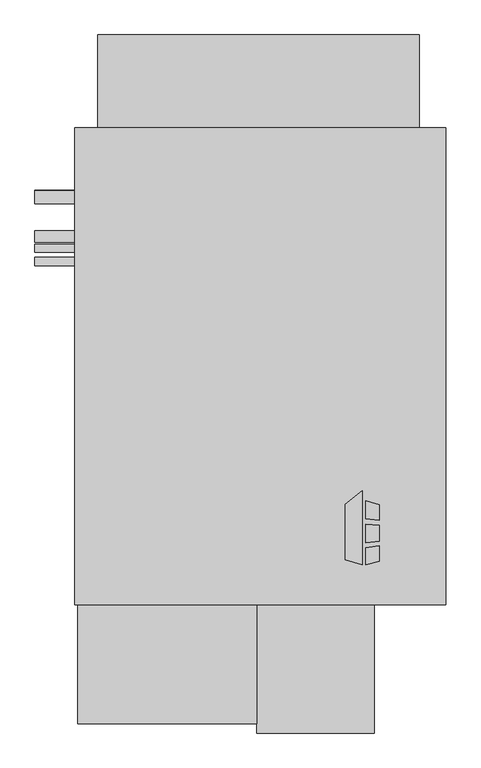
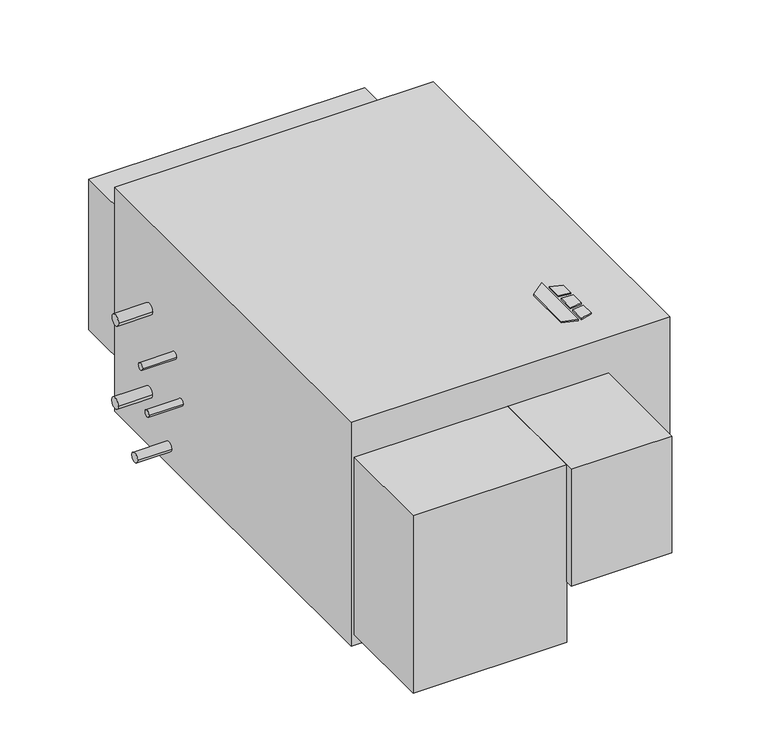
"""IFC4 building model written with IfcOpenShell, lengths in millimetres: proxy geometry, Horizontal_Direct_Drive_Blower_Coil_Unit_-_HDY_-_IEC_-_4-Pipe_LH_2022 : Size 06 - 460v/60Hz/3Ph - 6/2 Coil."""

from ifc_helpers import new_model, si_unit, point, frame, frame_2d, origin, origin_with_axes, place, context, project, spatial, polyline, circle_curve, trimmed, segment, composite_curve, outline, extrude, source, transform, mapped, element, save


def mechanical_equipment_558debcf(model_context):
    return source(origin(), model_context, "Body", "SweptSolid", [
        extrude(outline(polyline([(-547.9980239, -229.5578476), (-515.4397272, -204.1205184), (-515.4397272, -346.075), (-547.9980239, -335.8554201), (-547.9980239, -229.5578476)])), origin_with_axes(), (0.0, 0.0, 1.0), 3.175),
        extrude(outline(polyline([(-508.6813942, -257.429852), (-508.6813942, -222.9499379), (-482.6, -231.1365115), (-482.6, -260.6322446), (-508.6813942, -257.429852)])), origin_with_axes(), (0.0, 0.0, 1.0), 3.175),
        extrude(outline(polyline([(-482.6, -339.0865115), (-508.6813942, -346.075), (-508.6813942, -312.8536996), (-482.6, -309.3118564), (-482.6, -339.0865115)])), origin_with_axes(), (0.0, 0.0, 1.0), 3.175),
        extrude(outline(polyline([(-482.6, -269.7138277), (-482.6, -300.963983), (-508.6813942, -303.705248), (-508.6813942, -267.8475378), (-482.6, -269.7138277)])), origin_with_axes(), (0.0, 0.0, 1.0), 3.175),
        extrude(outline(composite_curve([segment(trimmed(circle_curve(frame_2d((358.775, -205.7657415)), 12.7), [point((371.475, -205.7657415))], [point((346.075, -205.7657415))], False, "CARTESIAN"), True, "CONTINUOUS"), segment(trimmed(circle_curve(frame_2d((358.775, -205.7657415)), 12.7), [point((346.075, -205.7657415))], [point((371.475, -205.7657415))], False, "CARTESIAN"), True, "CONTINUOUS")], self_intersect=False)), frame((-1143.0, 0.0, 0.0), z_axis=(1.0, 0.0, 0.0), x_axis=(0.0, 1.0, 0.0)), (0.0, 0.0, 1.0), 76.2),
        extrude(outline(composite_curve([segment(trimmed(circle_curve(frame_2d((359.642288, -402.6157415)), 12.7), [point((372.342288, -402.6157415))], [point((346.942288, -402.6157415))], False, "CARTESIAN"), True, "CONTINUOUS"), segment(trimmed(circle_curve(frame_2d((359.642288, -402.6157415)), 12.7), [point((346.942288, -402.6157415))], [point((372.342288, -402.6157415))], False, "CARTESIAN"), True, "CONTINUOUS")], self_intersect=False)), frame((-1143.0, 0.0, 0.0), z_axis=(1.0, 0.0, 0.0), x_axis=(0.0, 1.0, 0.0)), (0.0, 0.0, 1.0), 76.2),
        extrude(outline(composite_curve([segment(trimmed(circle_curve(frame_2d((283.442288, -485.1657415)), 11.1125), [point((294.554788, -485.1657415))], [point((272.329788, -485.1657415))], False, "CARTESIAN"), True, "CONTINUOUS"), segment(trimmed(circle_curve(frame_2d((283.442288, -485.1657415)), 11.1125), [point((272.329788, -485.1657415))], [point((294.554788, -485.1657415))], False, "CARTESIAN"), True, "CONTINUOUS")], self_intersect=False)), frame((-1143.0, 0.0, 0.0), z_axis=(1.0, 0.0, 0.0), x_axis=(0.0, 1.0, 0.0)), (0.0, 0.0, 1.0), 76.2),
        extrude(outline(composite_curve([segment(trimmed(circle_curve(frame_2d((261.217288, -256.5657415)), 7.9375), [point((269.154788, -256.5657415))], [point((253.279788, -256.5657415))], False, "CARTESIAN"), True, "CONTINUOUS"), segment(trimmed(circle_curve(frame_2d((261.217288, -256.5657415)), 7.9375), [point((253.279788, -256.5657415))], [point((269.154788, -256.5657415))], False, "CARTESIAN"), True, "CONTINUOUS")], self_intersect=False)), frame((-1143.0, 0.0, 0.0), z_axis=(1.0, 0.0, 0.0), x_axis=(0.0, 1.0, 0.0)), (0.0, 0.0, 1.0), 76.2),
        extrude(outline(composite_curve([segment(trimmed(circle_curve(frame_2d((235.817288, -352.0949971)), 7.9375), [point((243.754788, -352.0949971))], [point((227.879788, -352.0949971))], False, "CARTESIAN"), True, "CONTINUOUS"), segment(trimmed(circle_curve(frame_2d((235.817288, -352.0949971)), 7.9375), [point((227.879788, -352.0949971))], [point((243.754788, -352.0949971))], False, "CARTESIAN"), True, "CONTINUOUS")], self_intersect=False)), frame((-1143.0, 0.0, 0.0), z_axis=(1.0, 0.0, 0.0), x_axis=(0.0, 1.0, 0.0)), (0.0, 0.0, 1.0), 76.2),
        extrude(outline(polyline([(-355.6, 492.125), (-355.6, -422.275), (-1066.8, -422.275), (-1066.8, 492.125), (-355.6, 492.125)])), frame((0.0, 0.0, -529.6157415), z_axis=(0.0, 0.0, 1.0), x_axis=(1.0, 0.0, 0.0)), (0.0, 0.0, 1.0), 529.6157415),
        extrude(outline(polyline([(-717.55, -650.875), (-1060.45, -650.875), (-1060.45, -422.275), (-717.55, -422.275), (-717.55, -650.875)])), frame((0.0, 0.0, -504.2157415), z_axis=(0.0, 0.0, 1.0), x_axis=(1.0, 0.0, 0.0)), (0.0, 0.0, 1.0), 419.1),
        extrude(outline(polyline([(-1022.35, 669.925), (-406.4, 669.925), (-406.4, 492.125), (-1022.35, 492.125), (-1022.35, 669.925)])), frame((0.0, 0.0, -459.7657415), z_axis=(0.0, 0.0, 1.0), x_axis=(1.0, 0.0, 0.0)), (0.0, 0.0, 1.0), 355.6),
        extrude(outline(polyline([(-492.125, -668.3375), (-717.55, -668.3375), (-717.55, -422.275), (-492.125, -422.275), (-492.125, -668.3375)])), frame((0.0, 0.0, -361.3407415), z_axis=(0.0, 0.0, 1.0), x_axis=(1.0, 0.0, 0.0)), (0.0, 0.0, 1.0), 276.225),
    ])


if __name__ == "__main__":
    model = new_model("IFC4")
    model_context = context("Model", 3, world=origin())
    ifc_project = project(units=[si_unit("LENGTHUNIT", "METRE", prefix="MILLI")], contexts=[model_context])
    site = spatial("IfcSite", under=ifc_project)
    building = spatial("IfcBuilding", under=site)
    placement = place(None, origin())
    mechanical_equipment_shape = mechanical_equipment_558debcf(model_context)
    element("IfcBuildingElementProxy", 1, Name="Horizontal_Direct_Drive_Blower_Coil_Unit_-_HDY_-_IEC_-_4-Pipe_LH_2022 : Size 06 - 460v/60Hz/3Ph - 6/2 Coil", ObjectType="Horizontal_Direct_Drive_Blower_Coil_Unit_-_HDY_-_IEC_-_4-Pipe_LH_2022 : Size 06 - 460v/60Hz/3Ph - 6/2 Coil", at=placement, inside=building, context=model_context, shape_type="MappedRepresentation", body=[
        mapped(mechanical_equipment_shape, transform((0.0, 0.0, 0.0), x_axis=(1.0, 0.0, 0.0), y_axis=(0.0, 1.0, 0.0), z_axis=(0.0, 0.0, 1.0))),
    ])
    save(model, "model.ifc")
